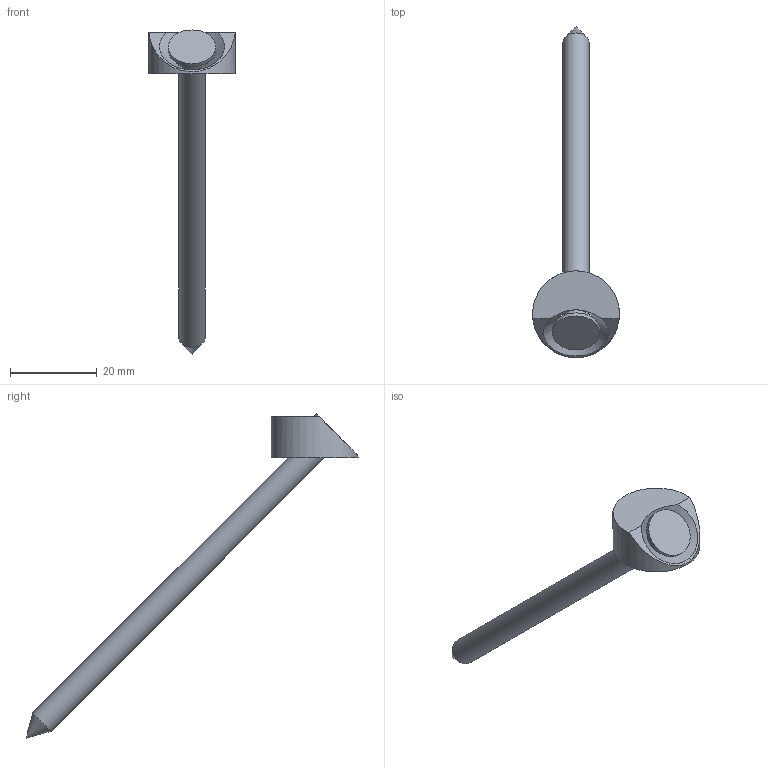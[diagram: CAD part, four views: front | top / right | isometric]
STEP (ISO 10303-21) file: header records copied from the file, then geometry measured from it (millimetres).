
FILE_DESCRIPTION(/* description */ ('Unknown'),/* implementation_level */ '2;1');
FILE_NAME(/* name */ 'T-JOINT_D20_W45_SK-Schraube 6x100 mm',/* time_stamp */ '2022-02-02T10:37:06+01:00',/* author */ ('Unknown'),/* organization */ ('Unknown'),/* preprocessor_version */ 'ST-DEVELOPER v16.7',/* originating_system */ 'Solid Edge',/* authorisation */ 'Unknown');
FILE_SCHEMA (('AUTOMOTIVE_DESIGN {1 0 10303 214 3 1 1}'));
Length unit declared in the file: millimetre
Products named in the file (3): T-Joint 20_SK 6x100; Rundzylinderscheibe_8er_Schraube_45_V3; SK_Schraube_6x100
Assembly tree (2 placements, depth 2):
  T-Joint 20_SK 6x100
    Rundzylinderscheibe_8er_Schraube_45_V3
    SK_Schraube_6x100
Bounding box: 20 x 76.42 x 74.6 mm (x, y, z)
Volume: 4709.4 mm3; surface area: 3168.1 mm2
Topology: 2 solids, 2 shells, 11 faces, 24 edges, 15 vertices
Faces by surface type: plane 4, cylinder 4, cone 3
Full cylindrical faces by diameter (mm): 6 x1, 8 x1, 11 x1, 20 x1
Entity records: 321 total; most frequent: DIRECTION 50, CARTESIAN_POINT 45, ORIENTED_EDGE 26, AXIS2_PLACEMENT_3D 24, FACE_BOUND 19, EDGE_LOOP 18, EDGE_CURVE 13, VERTEX_POINT 12
